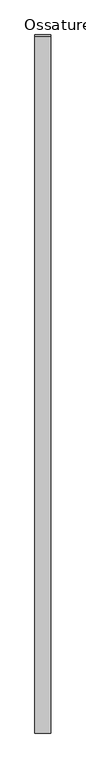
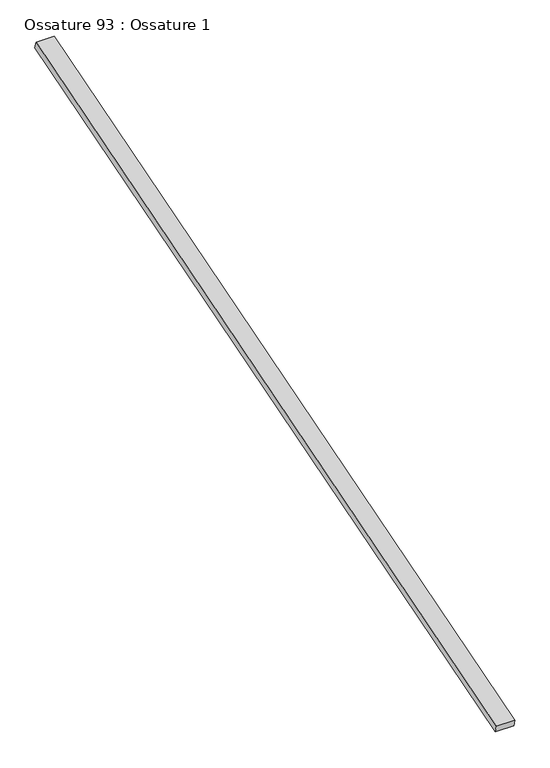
"""IFC4 building model written with IfcOpenShell, lengths in millimetres: beam geometry, Ossature 93 : Ossature 1."""

from ifc_helpers import new_model, si_unit, frame, origin, place, context, project, spatial, polyline, outline, extrude, source, transform, mapped, element, save


def ossature_93_ossature_1_21ac4c49(model_context):
    return source(origin(), model_context, "Body", "SweptSolid", [
        extrude(outline(polyline([(0.0, 0.0), (0.0, -4543.0299679), (-100.0, -4543.0299679), (-100.0, 0.0), (0.0, 0.0)])), frame((22431.0466393, -833.3913565, 8153.6336115), z_axis=(0.0, -0.28734788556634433, 0.9578262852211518), x_axis=(-1.0, 0.0, 0.0)), (0.0, 0.0, 1.0), 40.0),
    ])


if __name__ == "__main__":
    model = new_model("IFC4")
    model_context = context("Model", 3, world=origin())
    ifc_project = project(units=[si_unit("LENGTHUNIT", "METRE", prefix="MILLI")], contexts=[model_context])
    site = spatial("IfcSite", under=ifc_project)
    building = spatial("IfcBuilding", under=site)
    placement = place(None, origin())
    ossature_93_ossature_1_shape = ossature_93_ossature_1_21ac4c49(model_context)
    element("IfcBeam", 1, ObjectType="Ossature 93 : Ossature 1", at=placement, inside=building, context=model_context, shape_type="MappedRepresentation", body=[
        mapped(ossature_93_ossature_1_shape, transform((0.0, 0.0, 0.0), x_axis=(1.0, 0.0, 0.0), y_axis=(0.0, 1.0, 0.0), z_axis=(0.0, 0.0, 1.0))),
    ])
    save(model, "model.ifc")
